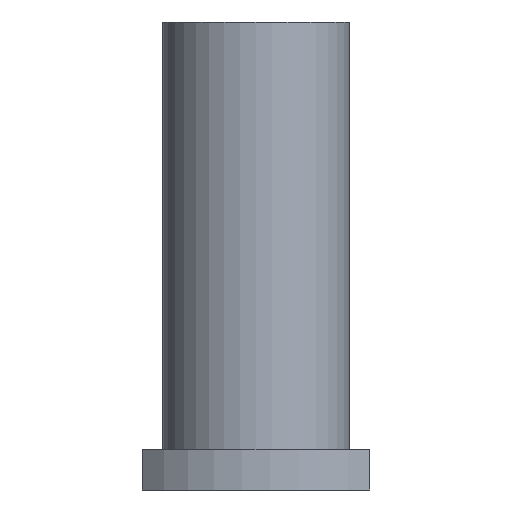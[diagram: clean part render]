
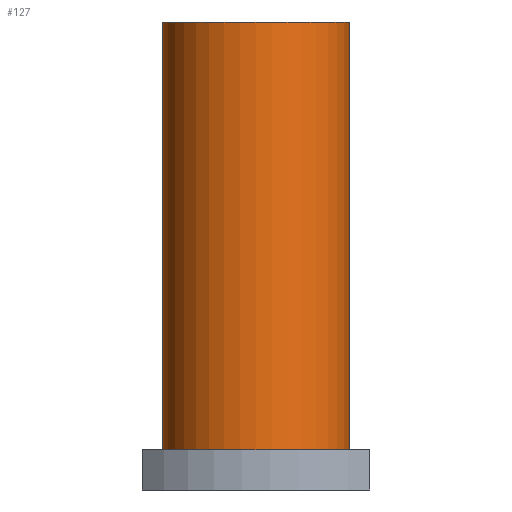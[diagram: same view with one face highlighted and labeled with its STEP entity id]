
A CAD part, front view. The second image highlights one B-rep face of the part: STEP entity #127.
In plain terms, the highlighted cylindrical face has radius 14 mm (diameter 28 mm), a partial arc.
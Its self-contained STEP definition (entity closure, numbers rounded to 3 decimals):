
#86=CARTESIAN_POINT('',(12.,-11.712,0.0));
#87=DIRECTION('',(0.0,0.0,1.0));
#88=DIRECTION('',(-1.0,0.0,0.0));
#89=AXIS2_PLACEMENT_3D('',#86,#87,#88);
#90=CYLINDRICAL_SURFACE('',#89,14.);
#91=CARTESIAN_POINT('',(-2.,-11.712,6.0));
#92=VERTEX_POINT('',#91);
#93=CARTESIAN_POINT('',(-2.,-11.712,70.0));
#94=VERTEX_POINT('',#93);
#95=CARTESIAN_POINT('',(-2.,-11.712,6.0));
#96=DIRECTION('',(0.0,0.0,1.0));
#97=VECTOR('',#96,64.0);
#98=LINE('',#95,#97);
#99=EDGE_CURVE('',#92,#94,#98,.T.);
#100=ORIENTED_EDGE('',*,*,#99,.F.);
#101=CARTESIAN_POINT('',(26.,-11.712,6.));
#102=VERTEX_POINT('',#101);
#103=CARTESIAN_POINT('',(12.,-11.712,6.));
#104=DIRECTION('',(0.0,0.0,-1.0));
#105=DIRECTION('',(-1.0,0.0,0.0));
#106=AXIS2_PLACEMENT_3D('',#103,#104,#105);
#107=CIRCLE('',#106,14.);
#108=EDGE_CURVE('',#102,#92,#107,.T.);
#109=ORIENTED_EDGE('',*,*,#108,.F.);
#110=CARTESIAN_POINT('',(26.,-11.712,70.0));
#111=VERTEX_POINT('',#110);
#112=CARTESIAN_POINT('',(26.,-11.712,70.0));
#113=DIRECTION('',(0.0,0.0,-1.0));
#114=VECTOR('',#113,64.0);
#115=LINE('',#112,#114);
#116=EDGE_CURVE('',#111,#102,#115,.T.);
#117=ORIENTED_EDGE('',*,*,#116,.F.);
#118=CARTESIAN_POINT('',(12.,-11.712,70.0));
#119=DIRECTION('',(0.0,0.0,-1.0));
#120=DIRECTION('',(-1.0,0.0,0.0));
#121=AXIS2_PLACEMENT_3D('',#118,#119,#120);
#122=CIRCLE('',#121,14.);
#123=EDGE_CURVE('',#111,#94,#122,.T.);
#124=ORIENTED_EDGE('',*,*,#123,.T.);
#125=EDGE_LOOP('',(#100,#109,#117,#124));
#126=FACE_OUTER_BOUND('',#125,.T.);
#127=ADVANCED_FACE('',(#126),#90,.T.);
